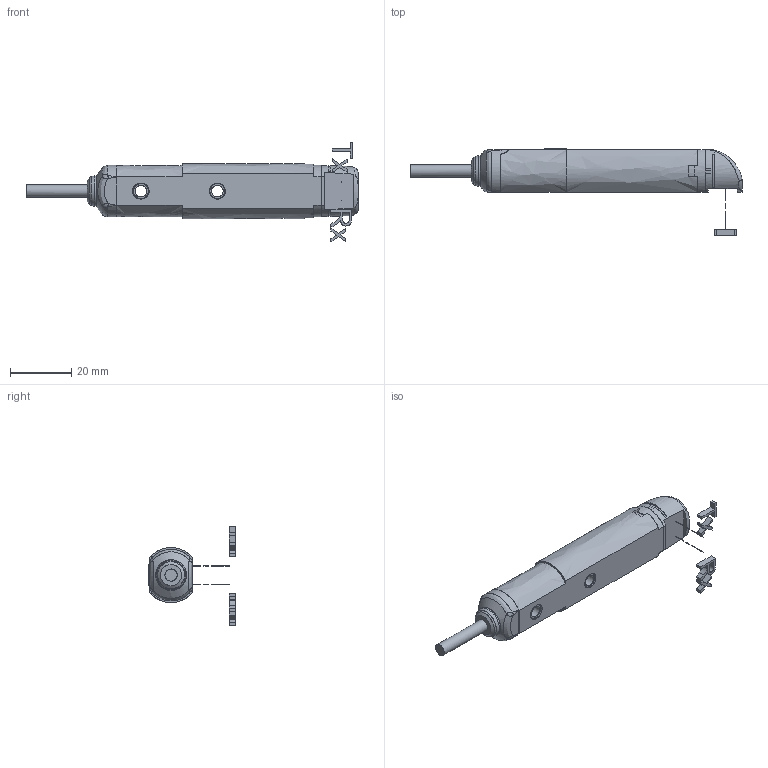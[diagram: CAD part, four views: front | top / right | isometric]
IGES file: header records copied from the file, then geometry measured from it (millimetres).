
Global section: file name: D:\TMP\DSD-0088.igs; preprocessor: I-DEAS 3D IGES Translator 11; date: 20060608.093739; units: millimetre
Bounding box: 108.58 x 28.3 x 32.67 mm (x, y, z)
Volume: 91.1 mm3; surface area: 5945.1 mm2
Topology: 8 solids, 8 shells, 241 faces, 1196 edges, 1090 vertices
Faces by surface type: bspline 241
